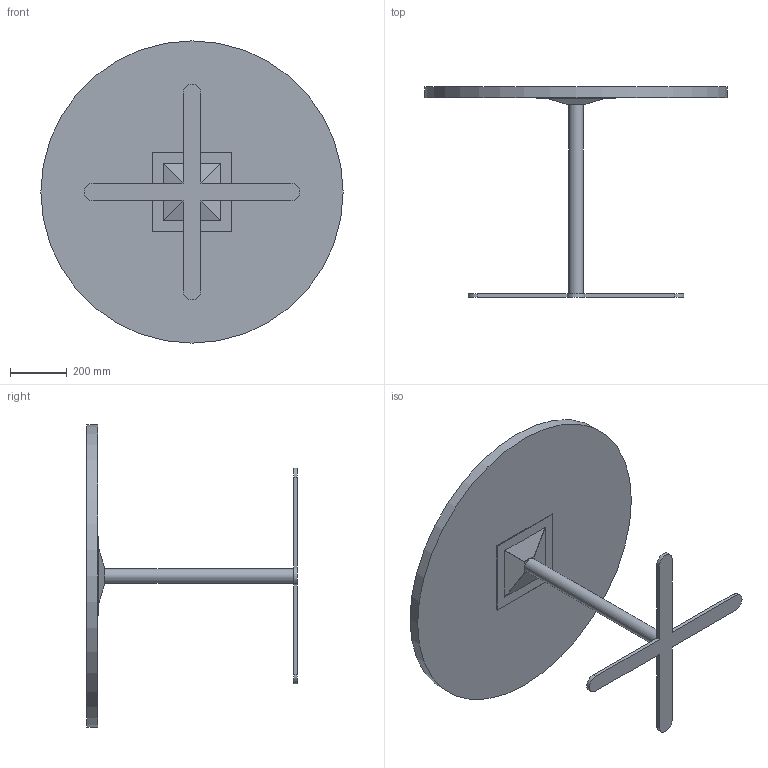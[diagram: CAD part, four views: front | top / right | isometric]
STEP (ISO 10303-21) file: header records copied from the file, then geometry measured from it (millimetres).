
FILE_DESCRIPTION(/* description */ ('','CAx-IF Rec.Pracs.---Representation and Presentation of Product Manufacturing Information (PMI)---4.0---2014-10-13'),/* implementation_level */ '2;1');
FILE_NAME(/* name */ 'TABLE_FOUNDATION 2.stp',/* time_stamp */ '2024-12-07T16:54:20-05:00',/* author */ ('mbowman'),/* organization */ (''),/* preprocessor_version */ 'ST-DEVELOPER v19.2',/* originating_system */ 'Autodesk Inventor 2023',/* authorisation */ '');
FILE_SCHEMA (('AP242_MANAGED_MODEL_BASED_3D_ENGINEERING_MIM_LF { 1 0 10303 442 1 1 4 }'));
Length unit declared in the file: inch
Products named in the file (3): FOUNDATION^TABLE 2_ROUND DUNHILL-ASSEMBLY; WCI^DUNHILL_X BASE-42sq TOP; FOUNDATION^TABLE 2_42 ROUND-WORKSURFACE
Assembly tree (2 placements, depth 2):
  FOUNDATION^TABLE 2_ROUND DUNHILL-ASSEMBLY
    WCI^DUNHILL_X BASE-42sq TOP
    FOUNDATION^TABLE 2_42 ROUND-WORKSURFACE
Bounding box: 1066.8 x 742.95 x 1066.8 mm (x, y, z)
Volume: 35760378.6 mm3; surface area: 2490771.5 mm2
Topology: 3 solids, 3 shells, 38 faces, 84 edges, 56 vertices
Faces by surface type: plane 30, cylinder 8
Full cylindrical faces by diameter (mm): 44.45 x2, 50.8 x1, 1066.8 x1
Entity records: 1398 total; most frequent: CARTESIAN_POINT 255, DIRECTION 210, ORIENTED_EDGE 168, EDGE_CURVE 84, AXIS2_PLACEMENT_3D 71, LINE 68, VECTOR 68, VERTEX_POINT 56
